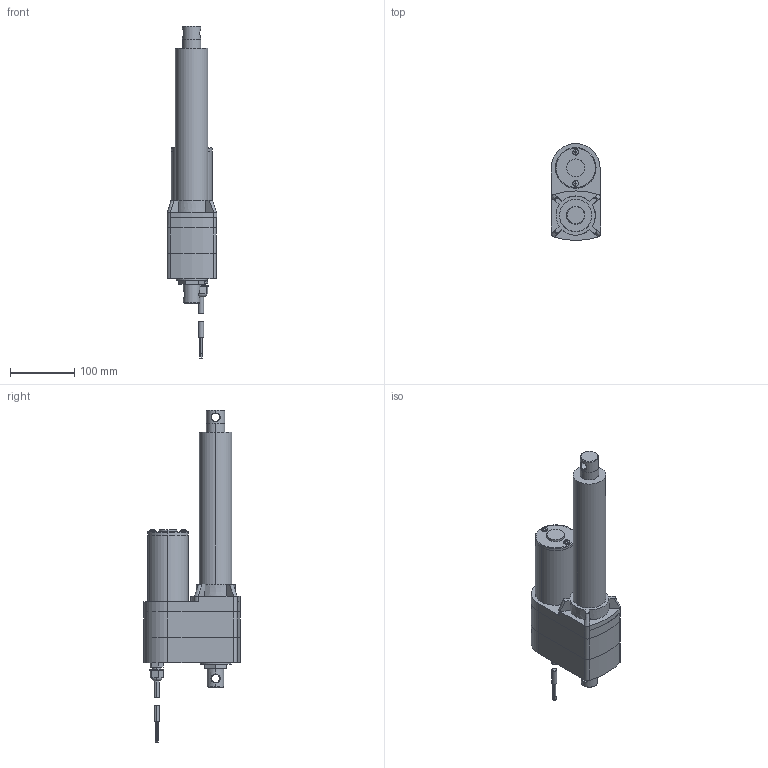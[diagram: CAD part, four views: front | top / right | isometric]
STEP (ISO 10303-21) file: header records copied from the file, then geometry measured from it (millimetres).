
FILE_DESCRIPTION (( 'STEP AP203' ), '1' );
FILE_NAME ('LA5_ACME_8_POT.step', '2021-02-24T15:20:42', ( '' ), ( '' ), 'SwSTEP 2.0', 'SolidWorks 2017', '' );
FILE_SCHEMA (( 'CONFIG_CONTROL_DESIGN' ));
Length unit declared in the file: millimetre
Products named in the file (1): LA5_ACME_8_POT
Bounding box: 77.22 x 151.29 x 518.37 mm (x, y, z)
Volume: 2019794.7 mm3; surface area: 200882.9 mm2
Topology: 14 solids, 14 shells, 333 faces, 716 edges, 446 vertices
Faces by surface type: plane 160, cylinder 113, cone 24, bspline 22, torus 10, sphere 4
Entity records: 11050 total; most frequent: CARTESIAN_POINT 3684, DIRECTION 1573, ORIENTED_EDGE 1432, EDGE_CURVE 716, AXIS2_PLACEMENT_3D 615, VERTEX_POINT 446, EDGE_LOOP 376, VECTOR 343
